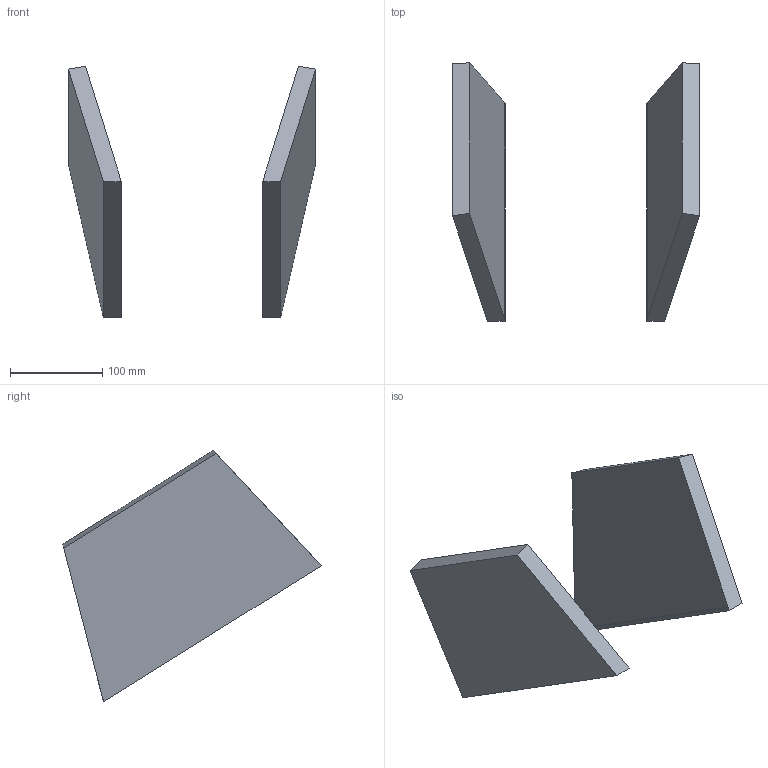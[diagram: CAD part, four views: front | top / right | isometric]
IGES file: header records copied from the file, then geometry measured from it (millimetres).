
Start section:  PTC IGES file: C:\Documents and Settings\Brad\Desktop\IGES\module_throa t_flair.igs
Global section: file name: C:\Documents and Settings\Brad\Desktop\IGES\module_throat_flair.igs; native system: Brad by Parametric Technology Corporation; preprocessor: 2003250; author: Unknown; organization: PTC; date: 040521.142625; units: inch
Bounding box: 267.92 x 280.25 x 272.89 mm (x, y, z)
Volume: 1533203.8 mm3; surface area: 192575.6 mm2
Topology: 2 solids, 2 shells, 14 faces, 30 edges, 20 vertices
Faces by surface type: bspline 14
